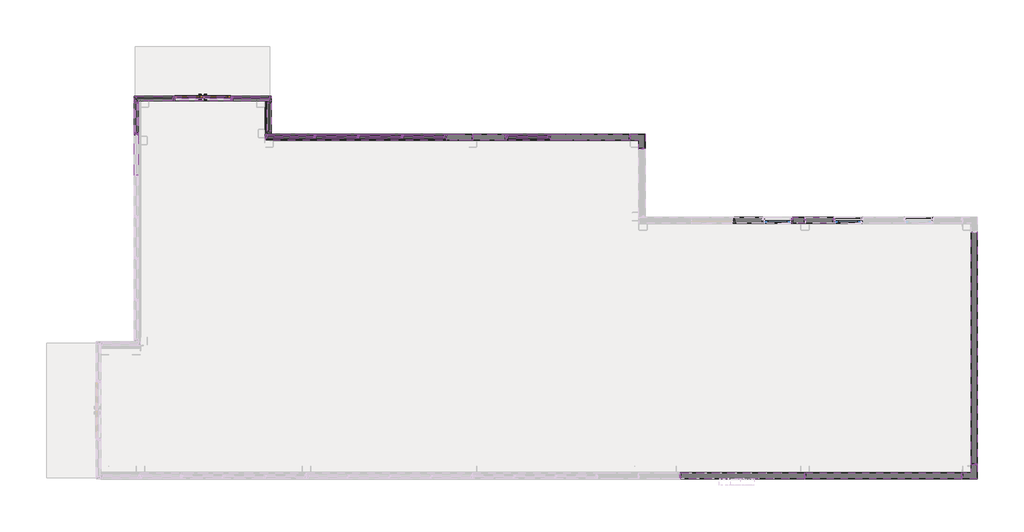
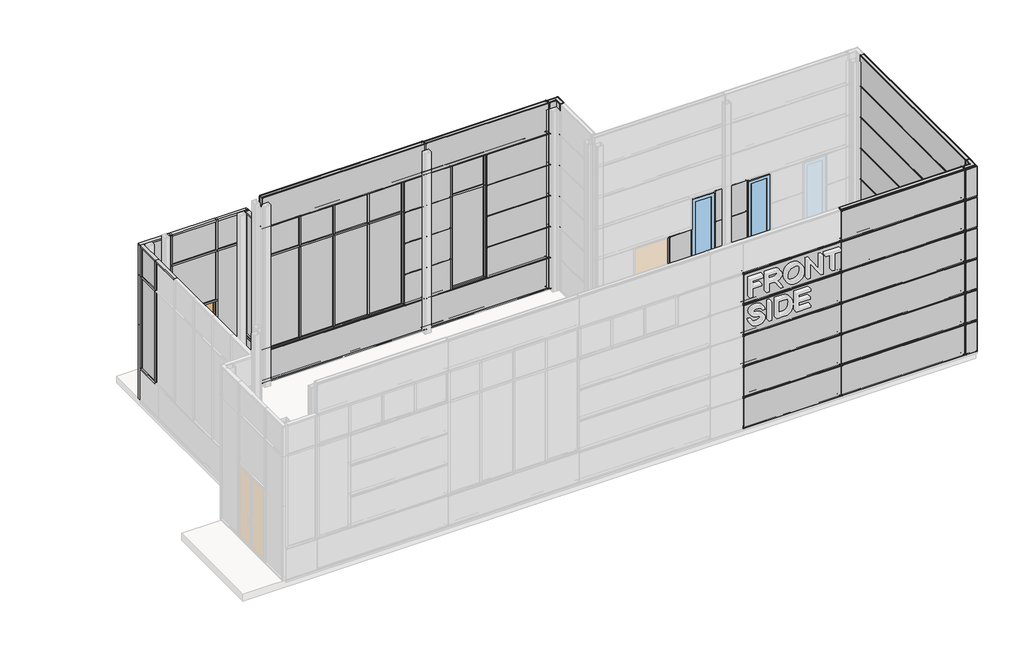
# One storey, part 3 of 37: 71 plates, 62 members, 2 windows, 1 door.
"""IFC4 building model written with IfcOpenShell, lengths in millimetres."""

from ifc_helpers import new_model, si_unit, origin, place, context, project, spatial, transform, mapped, element, save
from components import door_13e61a2d, member_19b48848, member_59bd0e1b, member_1467ba8b, member_0bcd7f07, member_afb0b622, member_d378b2fa, member_7f0eb0d8, member_b6a986cb, member_9443a213, member_779ca808, member_5b34e0f5, member_4112119e, member_f1c2b1b4, member_1ab4e24a, member_e036c857, member_b07d091a, member_6a33d58d, member_c717b3e6, member_8f93678d, member_a95d30d4, member_4302bc93, member_178848ad, member_33beeda5, member_2f80f005, member_458d3598, member_c640f651, member_561d3305, member_f6ba3ffe, member_50a310e9, member_2b4ef4e7, member_5adb4190, member_10280f2c, member_3057bdb5, member_968ebf7a, member_260a92d2, member_e49218c7, plate_7c7baba4, plate_77f62aa5, plate_39042a1e, plate_61407ef3, plate_7c09042f, plate_4e533238, plate_c0ce62cf, plate_bd87e464, plate_5ef97c14, plate_5ef37916, plate_c4f5b4d2, plate_d26f8b38, plate_79200ca4, plate_e346a334, plate_e95abe67, plate_a6d17f0d, plate_bcf0b63e, plate_c48ec016, plate_40149e77, plate_d031de24, plate_7003c026, plate_1067ccc3, plate_779b74dc, plate_193a82d2, plate_9b882203, plate_d295188d, plate_ea41461e, plate_1ca317ef, plate_a95caa87, plate_a692c527, plate_da5bb01e, plate_69a0faa1, plate_1ac65dce, plate_d7af983f, plate_1a5e30ce, window_bba19c4c

model = new_model("IFC4")

# Units and contexts
model_context = context("Model", 3, world=origin())
ifc_project = project(units=[si_unit("LENGTHUNIT", "METRE", prefix="MILLI")], contexts=[model_context])

# Site, building, storey
site = spatial("IfcSite", under=ifc_project)
building = spatial("IfcBuilding", under=site)
storey = spatial("IfcBuildingStorey", under=building, Name="Этаж 01", Elevation=0.0)

# Door
placement = place(None, origin())
door_shape = door_13e61a2d(model_context)
element("IfcDoor", 1, ObjectType="Дверь-Витраж-Двойная-Витрина : Дверь-Витраж-Двойная-Витрина", at=placement, inside=storey, context=model_context, shape_type="MappedRepresentation", body=[
    mapped(door_shape, transform((3000.0, 9010.0, 75.0), x_axis=(1.0, 0.0, 0.0), y_axis=(0.0, 1.0, 0.0), z_axis=(0.0, 0.0, 1.0))),
])

# Members
member_shape = member_19b48848(model_context)
element("IfcMember", 2, ObjectType="Прямоугольный импост : 50х100", at=placement, inside=storey, context=model_context, shape_type="MappedRepresentation", body=[
    mapped(member_shape, transform((1400.0, 8960.0, 4025.0), x_axis=(0.0, 1.0, 0.0), y_axis=(1.0, 0.0, 0.0), z_axis=(0.0, 0.0, -1.0))),
])
element("IfcMember", 3, ObjectType="Прямоугольный импост : 50х100", at=placement, inside=storey, context=model_context, shape_type="MappedRepresentation", body=[
    mapped(member_shape, transform((10300.0578348, 8100.0, 4975.0), x_axis=(-1.0, 0.0, 0.0), y_axis=(0.0, -1.0, 0.0), z_axis=(0.0, 0.0, 1.0))),
])
element("IfcMember", 4, ObjectType="Прямоугольный импост : 50х100", at=placement, inside=storey, context=model_context, shape_type="MappedRepresentation", body=[
    mapped(member_shape, transform((4500.0, 8100.0, 4975.0), x_axis=(-1.0, 0.0, 0.0), y_axis=(0.0, -1.0, 0.0), z_axis=(0.0, 0.0, 1.0))),
])
member_2_shape = member_59bd0e1b(model_context)
element("IfcMember", 5, ObjectType="Прямоугольный импост : 50х100", at=placement, inside=storey, context=model_context, shape_type="MappedRepresentation", body=[
    mapped(member_2_shape, transform((11310.0578348, 8100.0, 4025.0), x_axis=(0.0, 0.0, 1.0), y_axis=(0.0, -1.0, 0.0), z_axis=(1.0, 0.0, 0.0))),
])
member_3_shape = member_1467ba8b(model_context)
element("IfcMember", 6, ObjectType="Прямоугольный импост : 50х100", at=placement, inside=storey, context=model_context, shape_type="MappedRepresentation", body=[
    mapped(member_3_shape, transform((1400.0, 8165.0, 5025.0), x_axis=(0.0, 0.0, 1.0), y_axis=(1.0, 0.0, 0.0), z_axis=(0.0, 1.0, 0.0))),
])
member_4_shape = member_0bcd7f07(model_context)
element("IfcMember", 7, ObjectType="Прямоугольный импост : 50х100", at=placement, inside=storey, context=model_context, shape_type="MappedRepresentation", body=[
    mapped(member_4_shape, transform((1400.0, 8960.0, 1075.0), x_axis=(0.0, 1.0, 0.0), y_axis=(1.0, 0.0, 0.0), z_axis=(0.0, 0.0, -1.0))),
])
element("IfcMember", 8, ObjectType="Прямоугольный импост : 50х100", at=placement, inside=storey, context=model_context, shape_type="MappedRepresentation", body=[
    mapped(member_4_shape, transform((11360.0578348, 8100.0, 1075.0), x_axis=(1.0, 0.0, 0.0), y_axis=(0.0, -1.0, 0.0), z_axis=(0.0, 0.0, -1.0))),
])
element("IfcMember", 9, ObjectType="Прямоугольный импост : 50х100", at=placement, inside=storey, context=model_context, shape_type="MappedRepresentation", body=[
    mapped(member_4_shape, transform((8860.0, 8100.0, 1075.0), x_axis=(1.0, 0.0, 0.0), y_axis=(0.0, -1.0, 0.0), z_axis=(0.0, 0.0, -1.0))),
])
member_5_shape = member_afb0b622(model_context)
element("IfcMember", 10, ObjectType="Прямоугольный импост : 50х100", at=placement, inside=storey, context=model_context, shape_type="MappedRepresentation", body=[
    mapped(member_5_shape, transform((1400.0, 9010.0, 25.0), x_axis=(0.0, 0.0, -1.0), y_axis=(0.0, -1.0, 0.0), z_axis=(-1.0, 0.0, 0.0))),
])
element("IfcMember", 11, ObjectType="Прямоугольный импост : 50х100", at=placement, inside=storey, context=model_context, shape_type="MappedRepresentation", body=[
    mapped(member_shape, transform((3700.0, 9010.0, 25.0), x_axis=(0.0, 0.0, -1.0), y_axis=(0.0, -1.0, 0.0), z_axis=(-1.0, 0.0, 0.0))),
])
member_6_shape = member_d378b2fa(model_context)
element("IfcMember", 12, ObjectType="Прямоугольный импост : 50х100", at=placement, inside=storey, context=model_context, shape_type="MappedRepresentation", body=[
    mapped(member_6_shape, transform((2300.0, 9010.0, 25.0), x_axis=(0.0, 0.0, -1.0), y_axis=(0.0, -1.0, 0.0), z_axis=(-1.0, 0.0, 0.0))),
])
member_7_shape = member_7f0eb0d8(model_context)
element("IfcMember", 13, ObjectType="Прямоугольный импост : 50х100", at=placement, inside=storey, context=model_context, shape_type="MappedRepresentation", body=[
    mapped(member_7_shape, transform((4650.0, 9010.0, 75.0), x_axis=(1.0, 0.0, 0.0), y_axis=(0.0, -1.0, 0.0), z_axis=(0.0, 0.0, -1.0))),
])
element("IfcMember", 14, ObjectType="Прямоугольный импост : 50х100", at=placement, inside=storey, context=model_context, shape_type="MappedRepresentation", body=[
    mapped(member_3_shape, transform((4650.0, 9010.0, 4025.0), x_axis=(1.0, 0.0, 0.0), y_axis=(0.0, -1.0, 0.0), z_axis=(0.0, 0.0, -1.0))),
])
element("IfcMember", 15, ObjectType="Прямоугольный импост : 50х100", at=placement, inside=storey, context=model_context, shape_type="MappedRepresentation", body=[
    mapped(member_3_shape, transform((11360.0578348, 8100.0, 4025.0), x_axis=(1.0, 0.0, 0.0), y_axis=(0.0, -1.0, 0.0), z_axis=(0.0, 0.0, -1.0))),
])
element("IfcMember", 16, ObjectType="Прямоугольный импост : 50х100", at=placement, inside=storey, context=model_context, shape_type="MappedRepresentation", body=[
    mapped(member_3_shape, transform((8860.0, 8100.0, 4025.0), x_axis=(1.0, 0.0, 0.0), y_axis=(0.0, -1.0, 0.0), z_axis=(0.0, 0.0, -1.0))),
])
member_8_shape = member_b6a986cb(model_context)
element("IfcMember", 17, ObjectType="Прямоугольный импост : 50х100", at=placement, inside=storey, context=model_context, shape_type="MappedRepresentation", body=[
    mapped(member_8_shape, transform((10300.0578348, 8100.0, 4025.0), x_axis=(-1.0, 0.0, 0.0), y_axis=(0.0, -1.0, 0.0), z_axis=(0.0, 0.0, 1.0))),
])
element("IfcMember", 18, ObjectType="Прямоугольный импост : 50х100", at=placement, inside=storey, context=model_context, shape_type="MappedRepresentation", body=[
    mapped(member_8_shape, transform((4500.0, 8100.0, 4025.0), x_axis=(-1.0, 0.0, 0.0), y_axis=(0.0, -1.0, 0.0), z_axis=(0.0, 0.0, 1.0))),
])
member_9_shape = member_9443a213(model_context)
element("IfcMember", 19, ObjectType="Прямоугольный импост : 50х100", at=placement, inside=storey, context=model_context, shape_type="MappedRepresentation", body=[
    mapped(member_9_shape, transform((4650.0, 9010.0, 2425.0), x_axis=(1.0, 0.0, 0.0), y_axis=(0.0, -1.0, 0.0), z_axis=(0.0, 0.0, -1.0))),
])
member_10_shape = member_779ca808(model_context)
element("IfcMember", 20, ObjectType="Прямоугольный импост : 50х100", at=placement, inside=storey, context=model_context, shape_type="MappedRepresentation", body=[
    mapped(member_10_shape, transform((1350.0, 9010.0, 2425.0), x_axis=(-1.0, 0.0, 0.0), y_axis=(0.0, -1.0, 0.0), z_axis=(0.0, 0.0, 1.0))),
])
member_11_shape = member_5b34e0f5(model_context)
element("IfcMember", 21, ObjectType="Прямоугольный импост : 50х100", at=placement, inside=storey, context=model_context, shape_type="MappedRepresentation", body=[
    mapped(member_11_shape, transform((1400.0, 8960.0, 5025.0), x_axis=(0.0, 0.0, 1.0), y_axis=(1.0, 0.0, 0.0), z_axis=(0.0, 1.0, 0.0))),
])
element("IfcMember", 22, ObjectType="Прямоугольный импост : 50х100", at=placement, inside=storey, context=model_context, shape_type="MappedRepresentation", body=[
    mapped(member_11_shape, transform((1400.0, 8165.0, 1025.0), x_axis=(0.0, 0.0, -1.0), y_axis=(1.0, 0.0, 0.0), z_axis=(0.0, -1.0, 0.0))),
])
member_12_shape = member_4112119e(model_context)
element("IfcMember", 23, ObjectType="Прямоугольный импост : 50х100", at=placement, inside=storey, context=model_context, shape_type="MappedRepresentation", body=[
    mapped(member_12_shape, transform((4600.0, 8215.0, 5025.0), x_axis=(0.0, 0.0, 1.0), y_axis=(-1.0, 0.0, 0.0), z_axis=(0.0, -1.0, 0.0))),
])
element("IfcMember", 24, ObjectType="Прямоугольный импост : 50х100", at=placement, inside=storey, context=model_context, shape_type="MappedRepresentation", body=[
    mapped(member_12_shape, transform((4600.0, 8910.0, 1025.0), x_axis=(0.0, 0.0, -1.0), y_axis=(-1.0, 0.0, 0.0), z_axis=(0.0, 1.0, 0.0))),
])
member_13_shape = member_f1c2b1b4(model_context)
element("IfcMember", 25, ObjectType="Прямоугольный импост : 50х100", at=placement, inside=storey, context=model_context, shape_type="MappedRepresentation", body=[
    mapped(member_13_shape, transform((4600.0, 8165.0, 1025.0), x_axis=(0.0, -1.0, 0.0), y_axis=(-1.0, 0.0, 0.0), z_axis=(0.0, 0.0, -1.0))),
])
element("IfcMember", 26, ObjectType="Прямоугольный импост : 50х100", at=placement, inside=storey, context=model_context, shape_type="MappedRepresentation", body=[
    mapped(member_13_shape, transform((4600.0, 8960.0, 5025.0), x_axis=(0.0, 1.0, 0.0), y_axis=(-1.0, 0.0, 0.0), z_axis=(0.0, 0.0, 1.0))),
])
member_14_shape = member_1ab4e24a(model_context)
element("IfcMember", 27, ObjectType="Прямоугольный импост : 50х100", at=placement, inside=storey, context=model_context, shape_type="MappedRepresentation", body=[
    mapped(member_14_shape, transform((4600.0, 9010.0, 5025.0), x_axis=(0.0, 0.0, 1.0), y_axis=(0.0, -1.0, 0.0), z_axis=(1.0, 0.0, 0.0))),
])
member_15_shape = member_e036c857(model_context)
element("IfcMember", 28, ObjectType="Прямоугольный импост : 50х100", at=placement, inside=storey, context=model_context, shape_type="MappedRepresentation", body=[
    mapped(member_15_shape, transform((3675.0, 9010.0, 5025.0), x_axis=(0.0, 0.0, 1.0), y_axis=(0.0, -1.0, 0.0), z_axis=(1.0, 0.0, 0.0))),
])
member_16_shape = member_b07d091a(model_context)
element("IfcMember", 29, ObjectType="Прямоугольный импост : 50х100", at=placement, inside=storey, context=model_context, shape_type="MappedRepresentation", body=[
    mapped(member_16_shape, transform((2275.0, 9010.0, 5025.0), x_axis=(0.0, 0.0, 1.0), y_axis=(0.0, -1.0, 0.0), z_axis=(1.0, 0.0, 0.0))),
])
element("IfcMember", 30, ObjectType="Прямоугольный импост : 50х100", at=placement, inside=storey, context=model_context, shape_type="MappedRepresentation", body=[
    mapped(member_shape, transform((1350.0, 9010.0, 4975.0), x_axis=(-1.0, 0.0, 0.0), y_axis=(0.0, -1.0, 0.0), z_axis=(0.0, 0.0, 1.0))),
])
element("IfcMember", 31, ObjectType="Прямоугольный импост : 50х100", at=placement, inside=storey, context=model_context, shape_type="MappedRepresentation", body=[
    mapped(member_9_shape, transform((1350.0, 9010.0, 4025.0), x_axis=(-1.0, 0.0, 0.0), y_axis=(0.0, -1.0, 0.0), z_axis=(0.0, 0.0, 1.0))),
])
member_17_shape = member_6a33d58d(model_context)
element("IfcMember", 32, ObjectType="Прямоугольный импост : 50х100", at=placement, inside=storey, context=model_context, shape_type="MappedRepresentation", body=[
    mapped(member_17_shape, transform((11310.0578348, 8100.0, 5025.0), x_axis=(0.0, 0.0, 1.0), y_axis=(0.0, -1.0, 0.0), z_axis=(1.0, 0.0, 0.0))),
])
element("IfcMember", 33, ObjectType="Прямоугольный импост : 50х100", at=placement, inside=storey, context=model_context, shape_type="MappedRepresentation", body=[
    mapped(member_17_shape, transform((10350.0578348, 8100.0, 1025.0), x_axis=(0.0, 0.0, -1.0), y_axis=(0.0, -1.0, 0.0), z_axis=(-1.0, 0.0, 0.0))),
])
member_18_shape = member_c717b3e6(model_context)
element("IfcMember", 34, ObjectType="Прямоугольный импост : 50х100", at=placement, inside=storey, context=model_context, shape_type="MappedRepresentation", body=[
    mapped(member_18_shape, transform((8810.0, 8100.0, 5025.0), x_axis=(0.0, 0.0, 1.0), y_axis=(0.0, -1.0, 0.0), z_axis=(1.0, 0.0, 0.0))),
])
member_19_shape = member_8f93678d(model_context)
element("IfcMember", 35, ObjectType="Прямоугольный импост : 50х100", at=placement, inside=storey, context=model_context, shape_type="MappedRepresentation", body=[
    mapped(member_19_shape, transform((4550.0, 8100.0, 1025.0), x_axis=(0.0, 0.0, -1.0), y_axis=(0.0, -1.0, 0.0), z_axis=(-1.0, 0.0, 0.0))),
])
element("IfcMember", 36, ObjectType="Прямоугольный импост : 50х100", at=placement, inside=storey, context=model_context, shape_type="MappedRepresentation", body=[
    mapped(member_17_shape, transform((7775.0, 8100.0, 5025.0), x_axis=(0.0, 0.0, 1.0), y_axis=(0.0, -1.0, 0.0), z_axis=(1.0, 0.0, 0.0))),
])
member_20_shape = member_a95d30d4(model_context)
element("IfcMember", 37, ObjectType="Прямоугольный импост : 50х100", at=placement, inside=storey, context=model_context, shape_type="MappedRepresentation", body=[
    mapped(member_20_shape, transform((7800.0, 8100.0, 1025.0), x_axis=(0.0, 0.0, -1.0), y_axis=(0.0, -1.0, 0.0), z_axis=(-1.0, 0.0, 0.0))),
])
member_21_shape = member_4302bc93(model_context)
element("IfcMember", 38, ObjectType="Прямоугольный импост : 50х100", at=placement, inside=storey, context=model_context, shape_type="MappedRepresentation", body=[
    mapped(member_21_shape, transform((6715.0, 8100.0, 5025.0), x_axis=(0.0, 0.0, 1.0), y_axis=(0.0, -1.0, 0.0), z_axis=(1.0, 0.0, 0.0))),
])
element("IfcMember", 39, ObjectType="Прямоугольный импост : 50х100", at=placement, inside=storey, context=model_context, shape_type="MappedRepresentation", body=[
    mapped(member_20_shape, transform((6740.0, 8100.0, 1025.0), x_axis=(0.0, 0.0, -1.0), y_axis=(0.0, -1.0, 0.0), z_axis=(-1.0, 0.0, 0.0))),
])
member_22_shape = member_178848ad(model_context)
element("IfcMember", 40, ObjectType="Прямоугольный импост : 50х100", at=placement, inside=storey, context=model_context, shape_type="MappedRepresentation", body=[
    mapped(member_22_shape, transform((5675.0, 8100.0, 5025.0), x_axis=(0.0, 0.0, 1.0), y_axis=(0.0, -1.0, 0.0), z_axis=(1.0, 0.0, 0.0))),
])
member_23_shape = member_33beeda5(model_context)
element("IfcMember", 41, ObjectType="Прямоугольный импост : 50х100", at=placement, inside=storey, context=model_context, shape_type="MappedRepresentation", body=[
    mapped(member_23_shape, transform((5700.0, 8100.0, 1025.0), x_axis=(0.0, 0.0, -1.0), y_axis=(0.0, -1.0, 0.0), z_axis=(-1.0, 0.0, 0.0))),
])
member_24_shape = member_2f80f005(model_context)
element("IfcMember", 42, ObjectType="Прямоугольный импост : 50х100", at=placement, inside=storey, context=model_context, shape_type="MappedRepresentation", body=[
    mapped(member_24_shape, transform((1400.0, 8165.0, 1075.0), x_axis=(0.0, 1.0, 0.0), y_axis=(1.0, 0.0, 0.0), z_axis=(0.0, 0.0, -1.0))),
])
element("IfcMember", 43, ObjectType="Прямоугольный импост : 50х100", at=placement, inside=storey, context=model_context, shape_type="MappedRepresentation", body=[
    mapped(member_24_shape, transform((7800.0, 8100.0, 1075.0), x_axis=(1.0, 0.0, 0.0), y_axis=(0.0, -1.0, 0.0), z_axis=(0.0, 0.0, -1.0))),
])
element("IfcMember", 44, ObjectType="Прямоугольный импост : 50х100", at=placement, inside=storey, context=model_context, shape_type="MappedRepresentation", body=[
    mapped(member_24_shape, transform((6740.0, 8100.0, 1075.0), x_axis=(1.0, 0.0, 0.0), y_axis=(0.0, -1.0, 0.0), z_axis=(0.0, 0.0, -1.0))),
])
element("IfcMember", 45, ObjectType="Прямоугольный импост : 50х100", at=placement, inside=storey, context=model_context, shape_type="MappedRepresentation", body=[
    mapped(member_24_shape, transform((5700.0, 8100.0, 1075.0), x_axis=(1.0, 0.0, 0.0), y_axis=(0.0, -1.0, 0.0), z_axis=(0.0, 0.0, -1.0))),
])
member_25_shape = member_458d3598(model_context)
element("IfcMember", 46, ObjectType="Прямоугольный импост : 50х100", at=placement, inside=storey, context=model_context, shape_type="MappedRepresentation", body=[
    mapped(member_25_shape, transform((1400.0, 8165.0, 4050.0), x_axis=(0.0, 1.0, 0.0), y_axis=(1.0, 0.0, 0.0), z_axis=(0.0, 0.0, -1.0))),
])
member_26_shape = member_c640f651(model_context)
element("IfcMember", 47, ObjectType="Прямоугольный импост : 50х100", at=placement, inside=storey, context=model_context, shape_type="MappedRepresentation", body=[
    mapped(member_26_shape, transform((4600.0, 9010.0, 4025.0), x_axis=(0.0, 0.0, 1.0), y_axis=(0.0, -1.0, 0.0), z_axis=(1.0, 0.0, 0.0))),
])
member_27_shape = member_561d3305(model_context)
element("IfcMember", 48, ObjectType="Прямоугольный импост : 50х100", at=placement, inside=storey, context=model_context, shape_type="MappedRepresentation", body=[
    mapped(member_27_shape, transform((3700.0, 9010.0, 75.0), x_axis=(1.0, 0.0, 0.0), y_axis=(0.0, -1.0, 0.0), z_axis=(0.0, 0.0, -1.0))),
])
element("IfcMember", 49, ObjectType="Прямоугольный импост : 50х100", at=placement, inside=storey, context=model_context, shape_type="MappedRepresentation", body=[
    mapped(member_27_shape, transform((2300.0, 9010.0, 75.0), x_axis=(1.0, 0.0, 0.0), y_axis=(0.0, -1.0, 0.0), z_axis=(0.0, 0.0, -1.0))),
])
member_28_shape = member_f6ba3ffe(model_context)
element("IfcMember", 50, ObjectType="Прямоугольный импост : 50х100", at=placement, inside=storey, context=model_context, shape_type="MappedRepresentation", body=[
    mapped(member_28_shape, transform((3725.0, 9010.0, 2425.0), x_axis=(0.0, 0.0, 1.0), y_axis=(0.0, -1.0, 0.0), z_axis=(1.0, 0.0, 0.0))),
])
member_29_shape = member_50a310e9(model_context)
element("IfcMember", 51, ObjectType="Прямоугольный импост : 50х100", at=placement, inside=storey, context=model_context, shape_type="MappedRepresentation", body=[
    mapped(member_29_shape, transform((2300.0, 9010.0, 2450.0), x_axis=(1.0, 0.0, 0.0), y_axis=(0.0, -1.0, 0.0), z_axis=(0.0, 0.0, -1.0))),
])
element("IfcMember", 52, ObjectType="Прямоугольный импост : 50х100", at=placement, inside=storey, context=model_context, shape_type="MappedRepresentation", body=[
    mapped(member_29_shape, transform((3700.0, 9010.0, 2450.0), x_axis=(1.0, 0.0, 0.0), y_axis=(0.0, -1.0, 0.0), z_axis=(0.0, 0.0, -1.0))),
])
member_30_shape = member_2b4ef4e7(model_context)
element("IfcMember", 53, ObjectType="Прямоугольный импост : 50х100", at=placement, inside=storey, context=model_context, shape_type="MappedRepresentation", body=[
    mapped(member_30_shape, transform((1400.0, 8910.0, 4025.0), x_axis=(0.0, 0.0, 1.0), y_axis=(1.0, 0.0, 0.0), z_axis=(0.0, 1.0, 0.0))),
])
member_31_shape = member_5adb4190(model_context)
element("IfcMember", 54, ObjectType="Прямоугольный импост : 50х100", at=placement, inside=storey, context=model_context, shape_type="MappedRepresentation", body=[
    mapped(member_31_shape, transform((3700.0, 9010.0, 4025.0), x_axis=(0.0, 0.0, 1.0), y_axis=(0.0, -1.0, 0.0), z_axis=(1.0, 0.0, 0.0))),
])
member_32_shape = member_10280f2c(model_context)
element("IfcMember", 55, ObjectType="Прямоугольный импост : 50х100", at=placement, inside=storey, context=model_context, shape_type="MappedRepresentation", body=[
    mapped(member_32_shape, transform((2300.0, 9010.0, 4050.0), x_axis=(1.0, 0.0, 0.0), y_axis=(0.0, -1.0, 0.0), z_axis=(0.0, 0.0, -1.0))),
])
element("IfcMember", 56, ObjectType="Прямоугольный импост : 50х100", at=placement, inside=storey, context=model_context, shape_type="MappedRepresentation", body=[
    mapped(member_32_shape, transform((3700.0, 9010.0, 4050.0), x_axis=(1.0, 0.0, 0.0), y_axis=(0.0, -1.0, 0.0), z_axis=(0.0, 0.0, -1.0))),
])
element("IfcMember", 57, ObjectType="Прямоугольный импост : 50х100", at=placement, inside=storey, context=model_context, shape_type="MappedRepresentation", body=[
    mapped(member_32_shape, transform((5700.0, 8100.0, 4050.0), x_axis=(1.0, 0.0, 0.0), y_axis=(0.0, -1.0, 0.0), z_axis=(0.0, 0.0, -1.0))),
])
element("IfcMember", 58, ObjectType="Прямоугольный импост : 50х100", at=placement, inside=storey, context=model_context, shape_type="MappedRepresentation", body=[
    mapped(member_32_shape, transform((6740.0, 8100.0, 4050.0), x_axis=(1.0, 0.0, 0.0), y_axis=(0.0, -1.0, 0.0), z_axis=(0.0, 0.0, -1.0))),
])
element("IfcMember", 59, ObjectType="Прямоугольный импост : 50х100", at=placement, inside=storey, context=model_context, shape_type="MappedRepresentation", body=[
    mapped(member_32_shape, transform((7800.0, 8100.0, 4050.0), x_axis=(1.0, 0.0, 0.0), y_axis=(0.0, -1.0, 0.0), z_axis=(0.0, 0.0, -1.0))),
])
member_33_shape = member_3057bdb5(model_context)
element("IfcMember", 60, ObjectType="Прямоугольный импост : 50х100", at=placement, inside=storey, context=model_context, shape_type="MappedRepresentation", body=[
    mapped(member_33_shape, transform((5700.0, 8100.0, 4025.0), x_axis=(0.0, 0.0, 1.0), y_axis=(0.0, -1.0, 0.0), z_axis=(1.0, 0.0, 0.0))),
])
member_34_shape = member_968ebf7a(model_context)
element("IfcMember", 61, ObjectType="Прямоугольный импост : 50х100", at=placement, inside=storey, context=model_context, shape_type="MappedRepresentation", body=[
    mapped(member_34_shape, transform((6740.0, 8100.0, 4025.0), x_axis=(0.0, 0.0, 1.0), y_axis=(0.0, -1.0, 0.0), z_axis=(1.0, 0.0, 0.0))),
])
member_35_shape = member_260a92d2(model_context)
element("IfcMember", 62, ObjectType="Прямоугольный импост : 50х100", at=placement, inside=storey, context=model_context, shape_type="MappedRepresentation", body=[
    mapped(member_35_shape, transform((7800.0, 8100.0, 4025.0), x_axis=(0.0, 0.0, 1.0), y_axis=(0.0, -1.0, 0.0), z_axis=(1.0, 0.0, 0.0))),
])
member_36_shape = member_e49218c7(model_context)
element("IfcMember", 63, ObjectType="Прямоугольный импост : 50х100", at=placement, inside=storey, context=model_context, shape_type="MappedRepresentation", body=[
    mapped(member_36_shape, transform((8810.0, 8100.0, 4025.0), x_axis=(0.0, 0.0, 1.0), y_axis=(0.0, -1.0, 0.0), z_axis=(1.0, 0.0, 0.0))),
])

# Plates
plate_shape = plate_7c7baba4(model_context)
element("IfcPlate", 64, ObjectType="Системная панель : ADSK_Cтеклопакет_25", at=placement, inside=storey, context=model_context, shape_type="MappedRepresentation", body=[
    mapped(plate_shape, transform((4162.5, 9010.0, 4050.0), x_axis=(1.0, 0.0, 0.0), y_axis=(0.0, 1.0, 0.0), z_axis=(0.0, 0.0, 1.0))),
])
plate_2_shape = plate_77f62aa5(model_context)
element("IfcPlate", 65, ObjectType="Системная панель : ADSK_Cтеклопакет_25", at=placement, inside=storey, context=model_context, shape_type="MappedRepresentation", body=[
    mapped(plate_2_shape, transform((3000.0, 9010.0, 4050.0), x_axis=(1.0, 0.0, 0.0), y_axis=(0.0, 1.0, 0.0), z_axis=(0.0, 0.0, 1.0))),
])
plate_3_shape = plate_39042a1e(model_context)
element("IfcPlate", 66, ObjectType="Системная панель : ADSK_Cтеклопакет_25", at=placement, inside=storey, context=model_context, shape_type="MappedRepresentation", body=[
    mapped(plate_3_shape, transform((3000.0, 9010.0, 2450.0), x_axis=(1.0, 0.0, 0.0), y_axis=(0.0, 1.0, 0.0), z_axis=(0.0, 0.0, 1.0))),
])
plate_4_shape = plate_61407ef3(model_context)
element("IfcPlate", 67, ObjectType="Системная панель : ADSK_Cтеклопакет_25", at=placement, inside=storey, context=model_context, shape_type="MappedRepresentation", body=[
    mapped(plate_4_shape, transform((4162.5, 9010.0, 75.0), x_axis=(1.0, 0.0, 0.0), y_axis=(0.0, 1.0, 0.0), z_axis=(0.0, 0.0, 1.0))),
])
plate_5_shape = plate_7c09042f(model_context)
element("IfcPlate", 68, ObjectType="Системная панель : ADSK_Cтеклопакет_25", at=placement, inside=storey, context=model_context, shape_type="MappedRepresentation", body=[
    mapped(plate_5_shape, transform((1400.0, 8550.0, 1075.0), x_axis=(0.0, 1.0, 0.0), y_axis=(-1.0, 0.0, 0.0), z_axis=(0.0, 0.0, 1.0))),
])
plate_6_shape = plate_4e533238(model_context)
element("IfcPlate", 69, ObjectType="Системная панель : ADSK_Cтеклопакет_25", at=placement, inside=storey, context=model_context, shape_type="MappedRepresentation", body=[
    mapped(plate_6_shape, transform((1400.0, 8550.0, 4050.0), x_axis=(0.0, 1.0, 0.0), y_axis=(-1.0, 0.0, 0.0), z_axis=(0.0, 0.0, 1.0))),
])
plate_7_shape = plate_c0ce62cf(model_context)
element("IfcPlate", 70, ObjectType="Системная панель : ADSK_Cтеклопакет_25", at=placement, inside=storey, context=model_context, shape_type="MappedRepresentation", body=[
    mapped(plate_7_shape, transform((4600.0, 8562.5, 1075.0), x_axis=(0.0, -1.0, 0.0), y_axis=(1.0, 0.0, 0.0), z_axis=(0.0, 0.0, 1.0))),
])
plate_8_shape = plate_bd87e464(model_context)
element("IfcPlate", 71, ObjectType="Системная панель : ADSK_Cтеклопакет_25", at=placement, inside=storey, context=model_context, shape_type="MappedRepresentation", body=[
    mapped(plate_8_shape, transform((1837.5, 9010.0, 75.0), x_axis=(1.0, 0.0, 0.0), y_axis=(0.0, 1.0, 0.0), z_axis=(0.0, 0.0, 1.0))),
])
plate_9_shape = plate_5ef97c14(model_context)
element("IfcPlate", 72, ObjectType="Системная панель : ADSK_Cтеклопакет_25", at=placement, inside=storey, context=model_context, shape_type="MappedRepresentation", body=[
    mapped(plate_9_shape, transform((10830.0578348, 8100.0, 1075.0), x_axis=(1.0, 0.0, 0.0), y_axis=(0.0, 1.0, 0.0), z_axis=(0.0, 0.0, 1.0))),
])
plate_10_shape = plate_5ef37916(model_context)
element("IfcPlate", 73, ObjectType="Системная панель : ADSK_Cтеклопакет_25", at=placement, inside=storey, context=model_context, shape_type="MappedRepresentation", body=[
    mapped(plate_10_shape, transform((10830.0578348, 8100.0, 4050.0), x_axis=(1.0, 0.0, 0.0), y_axis=(0.0, 1.0, 0.0), z_axis=(0.0, 0.0, 1.0))),
])
plate_11_shape = plate_c4f5b4d2(model_context)
element("IfcPlate", 74, ObjectType="Системная панель : ADSK_Cтеклопакет_25", at=placement, inside=storey, context=model_context, shape_type="MappedRepresentation", body=[
    mapped(plate_11_shape, transform((5112.5, 8100.0, 1075.0), x_axis=(1.0, 0.0, 0.0), y_axis=(0.0, 1.0, 0.0), z_axis=(0.0, 0.0, 1.0))),
])
plate_12_shape = plate_d26f8b38(model_context)
element("IfcPlate", 75, ObjectType="Системная панель : ADSK_Cтеклопакет_25", at=placement, inside=storey, context=model_context, shape_type="MappedRepresentation", body=[
    mapped(plate_12_shape, transform((8317.5, 8100.0, 1075.0), x_axis=(1.0, 0.0, 0.0), y_axis=(0.0, 1.0, 0.0), z_axis=(0.0, 0.0, 1.0))),
])
plate_13_shape = plate_79200ca4(model_context)
element("IfcPlate", 76, ObjectType="Системная панель : ADSK_Cтеклопакет_25", at=placement, inside=storey, context=model_context, shape_type="MappedRepresentation", body=[
    mapped(plate_13_shape, transform((7270.0, 8100.0, 1075.0), x_axis=(1.0, 0.0, 0.0), y_axis=(0.0, 1.0, 0.0), z_axis=(0.0, 0.0, 1.0))),
])
plate_14_shape = plate_e346a334(model_context)
element("IfcPlate", 77, ObjectType="Системная панель : ADSK_Cтеклопакет_25", at=placement, inside=storey, context=model_context, shape_type="MappedRepresentation", body=[
    mapped(plate_14_shape, transform((6220.0, 8100.0, 1075.0), x_axis=(1.0, 0.0, 0.0), y_axis=(0.0, 1.0, 0.0), z_axis=(0.0, 0.0, 1.0))),
])
plate_15_shape = plate_e95abe67(model_context)
element("IfcPlate", 78, ObjectType="Системная панель : ADSK_Cтеклопакет_25", at=placement, inside=storey, context=model_context, shape_type="MappedRepresentation", body=[
    mapped(plate_15_shape, transform((5112.5, 8100.0, 4050.0), x_axis=(1.0, 0.0, 0.0), y_axis=(0.0, 1.0, 0.0), z_axis=(0.0, 0.0, 1.0))),
])
plate_16_shape = plate_a6d17f0d(model_context)
element("IfcPlate", 79, ObjectType="Системная панель : ADSK_Cтеклопакет_25", at=placement, inside=storey, context=model_context, shape_type="MappedRepresentation", body=[
    mapped(plate_16_shape, transform((6220.0, 8100.0, 4050.0), x_axis=(1.0, 0.0, 0.0), y_axis=(0.0, 1.0, 0.0), z_axis=(0.0, 0.0, 1.0))),
])
plate_17_shape = plate_bcf0b63e(model_context)
element("IfcPlate", 80, ObjectType="Системная панель : ADSK_Cтеклопакет_25", at=placement, inside=storey, context=model_context, shape_type="MappedRepresentation", body=[
    mapped(plate_17_shape, transform((7270.0, 8100.0, 4050.0), x_axis=(1.0, 0.0, 0.0), y_axis=(0.0, 1.0, 0.0), z_axis=(0.0, 0.0, 1.0))),
])
plate_18_shape = plate_c48ec016(model_context)
element("IfcPlate", 81, ObjectType="Системная панель : ADSK_Cтеклопакет_25", at=placement, inside=storey, context=model_context, shape_type="MappedRepresentation", body=[
    mapped(plate_18_shape, transform((8317.5, 8100.0, 4050.0), x_axis=(1.0, 0.0, 0.0), y_axis=(0.0, 1.0, 0.0), z_axis=(0.0, 0.0, 1.0))),
])
plate_19_shape = plate_40149e77(model_context)
element("IfcPlate", 82, ObjectType="Fronttop : Fronttop 150/1000", at=placement, inside=storey, context=model_context, shape_type="MappedRepresentation", body=[
    mapped(plate_19_shape, transform((21500.0, 3000.0, 25.0), x_axis=(0.0, -1.0, 0.0), y_axis=(1.0, 0.0, 0.0), z_axis=(0.0, 0.0, 1.0))),
])
element("IfcPlate", 83, ObjectType="Fronttop : Fronttop 150/1000", at=placement, inside=storey, context=model_context, shape_type="MappedRepresentation", body=[
    mapped(plate_19_shape, transform((21500.0, 3000.0, 1025.0), x_axis=(0.0, -1.0, 0.0), y_axis=(1.0, 0.0, 0.0), z_axis=(0.0, 0.0, 1.0))),
])
element("IfcPlate", 84, ObjectType="Fronttop : Fronttop 150/1000", at=placement, inside=storey, context=model_context, shape_type="MappedRepresentation", body=[
    mapped(plate_19_shape, transform((21500.0, 3000.0, 2025.0), x_axis=(0.0, -1.0, 0.0), y_axis=(1.0, 0.0, 0.0), z_axis=(0.0, 0.0, 1.0))),
])
element("IfcPlate", 85, ObjectType="Fronttop : Fronttop 150/1000", at=placement, inside=storey, context=model_context, shape_type="MappedRepresentation", body=[
    mapped(plate_19_shape, transform((21500.0, 3000.0, 3025.0), x_axis=(0.0, -1.0, 0.0), y_axis=(1.0, 0.0, 0.0), z_axis=(0.0, 0.0, 1.0))),
])
element("IfcPlate", 86, ObjectType="Fronttop : Fronttop 150/1000", at=placement, inside=storey, context=model_context, shape_type="MappedRepresentation", body=[
    mapped(plate_19_shape, transform((21500.0, 3000.0, 4025.0), x_axis=(0.0, -1.0, 0.0), y_axis=(1.0, 0.0, 0.0), z_axis=(0.0, 0.0, 1.0))),
])
element("IfcPlate", 87, ObjectType="Fronttop : Fronttop 150/1000", at=placement, inside=storey, context=model_context, shape_type="MappedRepresentation", body=[
    mapped(plate_19_shape, transform((21500.0, 3000.0, 5025.0), x_axis=(0.0, -1.0, 0.0), y_axis=(1.0, 0.0, 0.0), z_axis=(0.0, 0.0, 1.0))),
])
plate_20_shape = plate_d031de24(model_context)
element("IfcPlate", 88, ObjectType="Fronttop : Fronttop 150/1000", at=placement, inside=storey, context=model_context, shape_type="MappedRepresentation", body=[
    mapped(plate_20_shape, transform((19390.0, 6000.0, 25.0), x_axis=(1.0, 0.0, 0.0), y_axis=(0.0, 1.0, 0.0), z_axis=(0.0, 0.0, 1.0))),
])
plate_21_shape = plate_7003c026(model_context)
element("IfcPlate", 89, ObjectType="Fronttop : Fronttop 150/1000", at=placement, inside=storey, context=model_context, shape_type="MappedRepresentation", body=[
    mapped(plate_21_shape, transform((17845.0, 6000.0, 1025.0), x_axis=(1.0, 0.0, 0.0), y_axis=(0.0, 1.0, 0.0), z_axis=(0.0, 0.0, 1.0))),
])
element("IfcPlate", 90, ObjectType="Fronttop : Fronttop 150/1000", at=placement, inside=storey, context=model_context, shape_type="MappedRepresentation", body=[
    mapped(plate_21_shape, transform((17845.0, 6000.0, 2025.0), x_axis=(1.0, 0.0, 0.0), y_axis=(0.0, 1.0, 0.0), z_axis=(0.0, 0.0, 1.0))),
])
plate_22_shape = plate_1067ccc3(model_context)
element("IfcPlate", 91, ObjectType="Fronttop : Fronttop 150/1000", at=placement, inside=storey, context=model_context, shape_type="MappedRepresentation", body=[
    mapped(plate_22_shape, transform((17345.0, 6000.0, 1025.0), x_axis=(1.0, 0.0, 0.0), y_axis=(0.0, 1.0, 0.0), z_axis=(0.0, 0.0, 1.0))),
])
element("IfcPlate", 92, ObjectType="Fronttop : Fronttop 150/1000", at=placement, inside=storey, context=model_context, shape_type="MappedRepresentation", body=[
    mapped(plate_22_shape, transform((17345.0, 6000.0, 2025.0), x_axis=(1.0, 0.0, 0.0), y_axis=(0.0, 1.0, 0.0), z_axis=(0.0, 0.0, 1.0))),
])
plate_23_shape = plate_779b74dc(model_context)
element("IfcPlate", 93, ObjectType="Fronttop : Fronttop 150/1000", at=placement, inside=storey, context=model_context, shape_type="MappedRepresentation", body=[
    mapped(plate_23_shape, transform((16645.0, 6000.0, 25.0), x_axis=(1.0, 0.0, 0.0), y_axis=(0.0, 1.0, 0.0), z_axis=(0.0, 0.0, 1.0))),
])
plate_24_shape = plate_193a82d2(model_context)
element("IfcPlate", 94, ObjectType="Fronttop : Fronttop 150/1000", at=placement, inside=storey, context=model_context, shape_type="MappedRepresentation", body=[
    mapped(plate_24_shape, transform((16140.0, 6000.0, 1025.0), x_axis=(1.0, 0.0, 0.0), y_axis=(0.0, 1.0, 0.0), z_axis=(0.0, 0.0, 1.0))),
])
element("IfcPlate", 95, ObjectType="Fronttop : Fronttop 150/1000", at=placement, inside=storey, context=model_context, shape_type="MappedRepresentation", body=[
    mapped(plate_20_shape, transform((19390.0, 0.0, 25.0), x_axis=(-1.0, 0.0, 0.0), y_axis=(0.0, -1.0, 0.0), z_axis=(0.0, 0.0, 1.0))),
])
element("IfcPlate", 96, ObjectType="Fronttop : Fronttop 150/1000", at=placement, inside=storey, context=model_context, shape_type="MappedRepresentation", body=[
    mapped(plate_20_shape, transform((19390.0, 0.0, 1025.0), x_axis=(-1.0, 0.0, 0.0), y_axis=(0.0, -1.0, 0.0), z_axis=(0.0, 0.0, 1.0))),
])
element("IfcPlate", 97, ObjectType="Fronttop : Fronttop 150/1000", at=placement, inside=storey, context=model_context, shape_type="MappedRepresentation", body=[
    mapped(plate_20_shape, transform((19390.0, 0.0, 2025.0), x_axis=(-1.0, 0.0, 0.0), y_axis=(0.0, -1.0, 0.0), z_axis=(0.0, 0.0, 1.0))),
])
element("IfcPlate", 98, ObjectType="Fronttop : Fronttop 150/1000", at=placement, inside=storey, context=model_context, shape_type="MappedRepresentation", body=[
    mapped(plate_20_shape, transform((19390.0, 0.0, 3025.0), x_axis=(-1.0, 0.0, 0.0), y_axis=(0.0, -1.0, 0.0), z_axis=(0.0, 0.0, 1.0))),
])
element("IfcPlate", 99, ObjectType="Fronttop : Fronttop 150/1000", at=placement, inside=storey, context=model_context, shape_type="MappedRepresentation", body=[
    mapped(plate_20_shape, transform((19390.0, 0.0, 4025.0), x_axis=(-1.0, 0.0, 0.0), y_axis=(0.0, -1.0, 0.0), z_axis=(0.0, 0.0, 1.0))),
])
element("IfcPlate", 100, ObjectType="Fronttop : Fronttop 150/1000", at=placement, inside=storey, context=model_context, shape_type="MappedRepresentation", body=[
    mapped(plate_20_shape, transform((19390.0, 0.0, 5025.0), x_axis=(-1.0, 0.0, 0.0), y_axis=(0.0, -1.0, 0.0), z_axis=(0.0, 0.0, 1.0))),
])
plate_25_shape = plate_9b882203(model_context)
element("IfcPlate", 101, ObjectType="Fronttop : Fronttop 150/1000", at=placement, inside=storey, context=model_context, shape_type="MappedRepresentation", body=[
    mapped(plate_25_shape, transform((16000.0, 0.0, 25.0), x_axis=(-1.0, 0.0, 0.0), y_axis=(0.0, -1.0, 0.0), z_axis=(0.0, 0.0, 1.0))),
])
element("IfcPlate", 102, ObjectType="Fronttop : Fronttop 150/1000", at=placement, inside=storey, context=model_context, shape_type="MappedRepresentation", body=[
    mapped(plate_25_shape, transform((16000.0, 0.0, 1025.0), x_axis=(-1.0, 0.0, 0.0), y_axis=(0.0, -1.0, 0.0), z_axis=(0.0, 0.0, 1.0))),
])
element("IfcPlate", 103, ObjectType="Fronttop : Fronttop 150/1000", at=placement, inside=storey, context=model_context, shape_type="MappedRepresentation", body=[
    mapped(plate_25_shape, transform((16000.0, 0.0, 2025.0), x_axis=(-1.0, 0.0, 0.0), y_axis=(0.0, -1.0, 0.0), z_axis=(0.0, 0.0, 1.0))),
])
element("IfcPlate", 104, ObjectType="Fronttop : Fronttop 150/1000", at=placement, inside=storey, context=model_context, shape_type="MappedRepresentation", body=[
    mapped(plate_25_shape, transform((16000.0, 0.0, 3025.0), x_axis=(-1.0, 0.0, 0.0), y_axis=(0.0, -1.0, 0.0), z_axis=(0.0, 0.0, 1.0))),
])
element("IfcPlate", 105, ObjectType="Fronttop : Fronttop 150/1000", at=placement, inside=storey, context=model_context, shape_type="MappedRepresentation", body=[
    mapped(plate_25_shape, transform((16000.0, 0.0, 4025.0), x_axis=(-1.0, 0.0, 0.0), y_axis=(0.0, -1.0, 0.0), z_axis=(0.0, 0.0, 1.0))),
])
plate_26_shape = plate_d295188d(model_context)
element("IfcPlate", 106, ObjectType="Fronttop : Fronttop 150/1000", at=placement, inside=storey, context=model_context, shape_type="MappedRepresentation", body=[
    mapped(plate_26_shape, transform((4500.0, 8562.5, 25.0), x_axis=(0.0, -1.0, 0.0), y_axis=(1.0, 0.0, 0.0), z_axis=(0.0, 0.0, 1.0))),
])
plate_27_shape = plate_ea41461e(model_context)
element("IfcPlate", 107, ObjectType="Fronttop : Fronttop 150/1000", at=placement, inside=storey, context=model_context, shape_type="MappedRepresentation", body=[
    mapped(plate_27_shape, transform((7000.0, 8000.0, 25.0), x_axis=(1.0, 0.0, 0.0), y_axis=(0.0, 1.0, 0.0), z_axis=(0.0, 0.0, 1.0))),
])
element("IfcPlate", 108, ObjectType="Fronttop : Fronttop 150/1000", at=placement, inside=storey, context=model_context, shape_type="MappedRepresentation", body=[
    mapped(plate_27_shape, transform((7000.0, 8000.0, 5025.0), x_axis=(1.0, 0.0, 0.0), y_axis=(0.0, 1.0, 0.0), z_axis=(0.0, 0.0, 1.0))),
])
plate_28_shape = plate_1ca317ef(model_context)
element("IfcPlate", 109, ObjectType="Fronttop : Fronttop 150/1000", at=placement, inside=storey, context=model_context, shape_type="MappedRepresentation", body=[
    mapped(plate_28_shape, transform((11390.0289174, 8000.0, 25.0), x_axis=(1.0, 0.0, 0.0), y_axis=(0.0, 1.0, 0.0), z_axis=(0.0, 0.0, 1.0))),
])
element("IfcPlate", 110, ObjectType="Fronttop : Fronttop 150/1000", at=placement, inside=storey, context=model_context, shape_type="MappedRepresentation", body=[
    mapped(plate_28_shape, transform((11390.0289174, 8000.0, 5025.0), x_axis=(1.0, 0.0, 0.0), y_axis=(0.0, 1.0, 0.0), z_axis=(0.0, 0.0, 1.0))),
])
plate_29_shape = plate_a95caa87(model_context)
element("IfcPlate", 111, ObjectType="Fronttop : Fronttop 150/1000", at=placement, inside=storey, context=model_context, shape_type="MappedRepresentation", body=[
    mapped(plate_29_shape, transform((9900.0, 8000.0, 1025.0), x_axis=(1.0, 0.0, 0.0), y_axis=(0.0, 1.0, 0.0), z_axis=(0.0, 0.0, 1.0))),
])
element("IfcPlate", 112, ObjectType="Fronttop : Fronttop 150/1000", at=placement, inside=storey, context=model_context, shape_type="MappedRepresentation", body=[
    mapped(plate_29_shape, transform((9900.0, 8000.0, 2025.0), x_axis=(1.0, 0.0, 0.0), y_axis=(0.0, 1.0, 0.0), z_axis=(0.0, 0.0, 1.0))),
])
element("IfcPlate", 113, ObjectType="Fronttop : Fronttop 150/1000", at=placement, inside=storey, context=model_context, shape_type="MappedRepresentation", body=[
    mapped(plate_29_shape, transform((9900.0, 8000.0, 3025.0), x_axis=(1.0, 0.0, 0.0), y_axis=(0.0, 1.0, 0.0), z_axis=(0.0, 0.0, 1.0))),
])
element("IfcPlate", 114, ObjectType="Fronttop : Fronttop 150/1000", at=placement, inside=storey, context=model_context, shape_type="MappedRepresentation", body=[
    mapped(plate_29_shape, transform((9900.0, 8000.0, 4025.0), x_axis=(1.0, 0.0, 0.0), y_axis=(0.0, 1.0, 0.0), z_axis=(0.0, 0.0, 1.0))),
])
plate_30_shape = plate_a692c527(model_context)
element("IfcPlate", 115, ObjectType="Fronttop : Fronttop 150/1000", at=placement, inside=storey, context=model_context, shape_type="MappedRepresentation", body=[
    mapped(plate_30_shape, transform((12320.0578348, 8000.0, 1025.0), x_axis=(1.0, 0.0, 0.0), y_axis=(0.0, 1.0, 0.0), z_axis=(0.0, 0.0, 1.0))),
])
element("IfcPlate", 116, ObjectType="Fronttop : Fronttop 150/1000", at=placement, inside=storey, context=model_context, shape_type="MappedRepresentation", body=[
    mapped(plate_30_shape, transform((12320.0578348, 8000.0, 2025.0), x_axis=(1.0, 0.0, 0.0), y_axis=(0.0, 1.0, 0.0), z_axis=(0.0, 0.0, 1.0))),
])
element("IfcPlate", 117, ObjectType="Fronttop : Fronttop 150/1000", at=placement, inside=storey, context=model_context, shape_type="MappedRepresentation", body=[
    mapped(plate_30_shape, transform((12320.0578348, 8000.0, 3025.0), x_axis=(1.0, 0.0, 0.0), y_axis=(0.0, 1.0, 0.0), z_axis=(0.0, 0.0, 1.0))),
])
element("IfcPlate", 118, ObjectType="Fronttop : Fronttop 150/1000", at=placement, inside=storey, context=model_context, shape_type="MappedRepresentation", body=[
    mapped(plate_30_shape, transform((12320.0578348, 8000.0, 4025.0), x_axis=(1.0, 0.0, 0.0), y_axis=(0.0, 1.0, 0.0), z_axis=(0.0, 0.0, 1.0))),
])
plate_31_shape = plate_da5bb01e(model_context)
element("IfcPlate", 119, ObjectType="Fronttop : Fronttop 150/1000", at=placement, inside=storey, context=model_context, shape_type="MappedRepresentation", body=[
    mapped(plate_31_shape, transform((9180.0, 8000.0, 1025.0), x_axis=(1.0, 0.0, 0.0), y_axis=(0.0, 1.0, 0.0), z_axis=(0.0, 0.0, 1.0))),
])
element("IfcPlate", 120, ObjectType="Fronttop : Fronttop 150/1000", at=placement, inside=storey, context=model_context, shape_type="MappedRepresentation", body=[
    mapped(plate_31_shape, transform((9180.0, 8000.0, 2025.0), x_axis=(1.0, 0.0, 0.0), y_axis=(0.0, 1.0, 0.0), z_axis=(0.0, 0.0, 1.0))),
])
element("IfcPlate", 121, ObjectType="Fronttop : Fronttop 150/1000", at=placement, inside=storey, context=model_context, shape_type="MappedRepresentation", body=[
    mapped(plate_31_shape, transform((9180.0, 8000.0, 3025.0), x_axis=(1.0, 0.0, 0.0), y_axis=(0.0, 1.0, 0.0), z_axis=(0.0, 0.0, 1.0))),
])
element("IfcPlate", 122, ObjectType="Fronttop : Fronttop 150/1000", at=placement, inside=storey, context=model_context, shape_type="MappedRepresentation", body=[
    mapped(plate_31_shape, transform((9180.0, 8000.0, 4025.0), x_axis=(1.0, 0.0, 0.0), y_axis=(0.0, 1.0, 0.0), z_axis=(0.0, 0.0, 1.0))),
])
plate_32_shape = plate_69a0faa1(model_context)
plate_33_shape = plate_1ac65dce(model_context)
element("IfcPlate", 123, ObjectType="Угловой модуль Fronttop : Угловой модуль Fronttop 150/1000", at=placement, inside=storey, context=model_context, shape_type="MappedRepresentation", body=[
    mapped(plate_32_shape, transform((13465.0578348, 8000.0, 25.0), x_axis=(1.0, 0.0, 0.0), y_axis=(0.0, 1.0, 0.0), z_axis=(0.0, 0.0, 1.0))),
    mapped(plate_33_shape, transform((13465.0578348, 8000.0, 25.0), x_axis=(1.0, 0.0, 0.0), y_axis=(0.0, 1.0, 0.0), z_axis=(0.0, 0.0, 1.0))),
])
element("IfcPlate", 124, ObjectType="Угловой модуль Fronttop : Угловой модуль Fronttop 150/1000", at=placement, inside=storey, context=model_context, shape_type="MappedRepresentation", body=[
    mapped(plate_32_shape, transform((13465.0578348, 8000.0, 1025.0), x_axis=(1.0, 0.0, 0.0), y_axis=(0.0, 1.0, 0.0), z_axis=(0.0, 0.0, 1.0))),
    mapped(plate_33_shape, transform((13465.0578348, 8000.0, 1025.0), x_axis=(1.0, 0.0, 0.0), y_axis=(0.0, 1.0, 0.0), z_axis=(0.0, 0.0, 1.0))),
])
element("IfcPlate", 125, ObjectType="Угловой модуль Fronttop : Угловой модуль Fronttop 150/1000", at=placement, inside=storey, context=model_context, shape_type="MappedRepresentation", body=[
    mapped(plate_32_shape, transform((13465.0578348, 8000.0, 2025.0), x_axis=(1.0, 0.0, 0.0), y_axis=(0.0, 1.0, 0.0), z_axis=(0.0, 0.0, 1.0))),
    mapped(plate_33_shape, transform((13465.0578348, 8000.0, 2025.0), x_axis=(1.0, 0.0, 0.0), y_axis=(0.0, 1.0, 0.0), z_axis=(0.0, 0.0, 1.0))),
])
element("IfcPlate", 126, ObjectType="Угловой модуль Fronttop : Угловой модуль Fronttop 150/1000", at=placement, inside=storey, context=model_context, shape_type="MappedRepresentation", body=[
    mapped(plate_32_shape, transform((13465.0578348, 8000.0, 3025.0), x_axis=(1.0, 0.0, 0.0), y_axis=(0.0, 1.0, 0.0), z_axis=(0.0, 0.0, 1.0))),
    mapped(plate_33_shape, transform((13465.0578348, 8000.0, 3025.0), x_axis=(1.0, 0.0, 0.0), y_axis=(0.0, 1.0, 0.0), z_axis=(0.0, 0.0, 1.0))),
])
element("IfcPlate", 127, ObjectType="Угловой модуль Fronttop : Угловой модуль Fronttop 150/1000", at=placement, inside=storey, context=model_context, shape_type="MappedRepresentation", body=[
    mapped(plate_32_shape, transform((13465.0578348, 8000.0, 4025.0), x_axis=(1.0, 0.0, 0.0), y_axis=(0.0, 1.0, 0.0), z_axis=(0.0, 0.0, 1.0))),
    mapped(plate_33_shape, transform((13465.0578348, 8000.0, 4025.0), x_axis=(1.0, 0.0, 0.0), y_axis=(0.0, 1.0, 0.0), z_axis=(0.0, 0.0, 1.0))),
])
element("IfcPlate", 128, ObjectType="Угловой модуль Fronttop : Угловой модуль Fronttop 150/1000", at=placement, inside=storey, context=model_context, shape_type="MappedRepresentation", body=[
    mapped(plate_32_shape, transform((13465.0578348, 8000.0, 5025.0), x_axis=(1.0, 0.0, 0.0), y_axis=(0.0, 1.0, 0.0), z_axis=(0.0, 0.0, 1.0))),
    mapped(plate_33_shape, transform((13465.0578348, 8000.0, 5025.0), x_axis=(1.0, 0.0, 0.0), y_axis=(0.0, 1.0, 0.0), z_axis=(0.0, 0.0, 1.0))),
])
plate_34_shape = plate_d7af983f(model_context)
plate_35_shape = plate_1a5e30ce(model_context)
element("IfcPlate", 129, ObjectType="Угловой модуль Fronttop : Угловой модуль Fronttop 150/1000", at=placement, inside=storey, context=model_context, shape_type="MappedRepresentation", body=[
    mapped(plate_34_shape, transform((21500.0, 25.0, 25.0), x_axis=(0.0, -1.0, 0.0), y_axis=(1.0, 0.0, 0.0), z_axis=(0.0, 0.0, 1.0))),
    mapped(plate_35_shape, transform((21500.0, 25.0, 25.0), x_axis=(0.0, -1.0, 0.0), y_axis=(1.0, 0.0, 0.0), z_axis=(0.0, 0.0, 1.0))),
])
element("IfcPlate", 130, ObjectType="Угловой модуль Fronttop : Угловой модуль Fronttop 150/1000", at=placement, inside=storey, context=model_context, shape_type="MappedRepresentation", body=[
    mapped(plate_34_shape, transform((21500.0, 25.0, 1025.0), x_axis=(0.0, -1.0, 0.0), y_axis=(1.0, 0.0, 0.0), z_axis=(0.0, 0.0, 1.0))),
    mapped(plate_35_shape, transform((21500.0, 25.0, 1025.0), x_axis=(0.0, -1.0, 0.0), y_axis=(1.0, 0.0, 0.0), z_axis=(0.0, 0.0, 1.0))),
])
element("IfcPlate", 131, ObjectType="Угловой модуль Fronttop : Угловой модуль Fronttop 150/1000", at=placement, inside=storey, context=model_context, shape_type="MappedRepresentation", body=[
    mapped(plate_34_shape, transform((21500.0, 25.0, 2025.0), x_axis=(0.0, -1.0, 0.0), y_axis=(1.0, 0.0, 0.0), z_axis=(0.0, 0.0, 1.0))),
    mapped(plate_35_shape, transform((21500.0, 25.0, 2025.0), x_axis=(0.0, -1.0, 0.0), y_axis=(1.0, 0.0, 0.0), z_axis=(0.0, 0.0, 1.0))),
])
element("IfcPlate", 132, ObjectType="Угловой модуль Fronttop : Угловой модуль Fronttop 150/1000", at=placement, inside=storey, context=model_context, shape_type="MappedRepresentation", body=[
    mapped(plate_34_shape, transform((21500.0, 25.0, 3025.0), x_axis=(0.0, -1.0, 0.0), y_axis=(1.0, 0.0, 0.0), z_axis=(0.0, 0.0, 1.0))),
    mapped(plate_35_shape, transform((21500.0, 25.0, 3025.0), x_axis=(0.0, -1.0, 0.0), y_axis=(1.0, 0.0, 0.0), z_axis=(0.0, 0.0, 1.0))),
])
element("IfcPlate", 133, ObjectType="Угловой модуль Fronttop : Угловой модуль Fronttop 150/1000", at=placement, inside=storey, context=model_context, shape_type="MappedRepresentation", body=[
    mapped(plate_34_shape, transform((21500.0, 25.0, 4025.0), x_axis=(0.0, -1.0, 0.0), y_axis=(1.0, 0.0, 0.0), z_axis=(0.0, 0.0, 1.0))),
    mapped(plate_35_shape, transform((21500.0, 25.0, 4025.0), x_axis=(0.0, -1.0, 0.0), y_axis=(1.0, 0.0, 0.0), z_axis=(0.0, 0.0, 1.0))),
])
element("IfcPlate", 134, ObjectType="Угловой модуль Fronttop : Угловой модуль Fronttop 150/1000", at=placement, inside=storey, context=model_context, shape_type="MappedRepresentation", body=[
    mapped(plate_34_shape, transform((21500.0, 25.0, 5025.0), x_axis=(0.0, -1.0, 0.0), y_axis=(1.0, 0.0, 0.0), z_axis=(0.0, 0.0, 1.0))),
    mapped(plate_35_shape, transform((21500.0, 25.0, 5025.0), x_axis=(0.0, -1.0, 0.0), y_axis=(1.0, 0.0, 0.0), z_axis=(0.0, 0.0, 1.0))),
])

# Windows
window_shape = window_bba19c4c(model_context)
element("IfcWindow", 135, ObjectType="Витраж-тент Фронтсайд : Витраж-тент", at=placement, inside=storey, context=model_context, shape_type="MappedRepresentation", body=[
    mapped(window_shape, transform((18540.0, 6000.0, 1025.0), x_axis=(1.0, 0.0, 0.0), y_axis=(0.0, 1.0, 0.0), z_axis=(0.0, 0.0, 1.0))),
])
element("IfcWindow", 136, ObjectType="Витраж-тент Фронтсайд : Витраж-тент", at=placement, inside=storey, context=model_context, shape_type="MappedRepresentation", body=[
    mapped(window_shape, transform((16840.0, 6000.0, 1025.0), x_axis=(1.0, 0.0, 0.0), y_axis=(0.0, 1.0, 0.0), z_axis=(0.0, 0.0, 1.0))),
])

save(model, "model.ifc")
